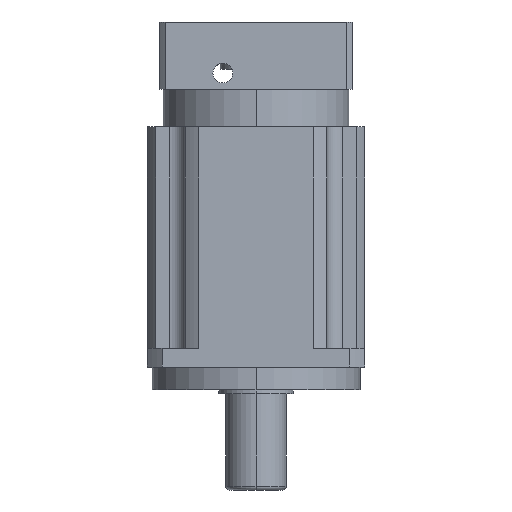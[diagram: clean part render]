
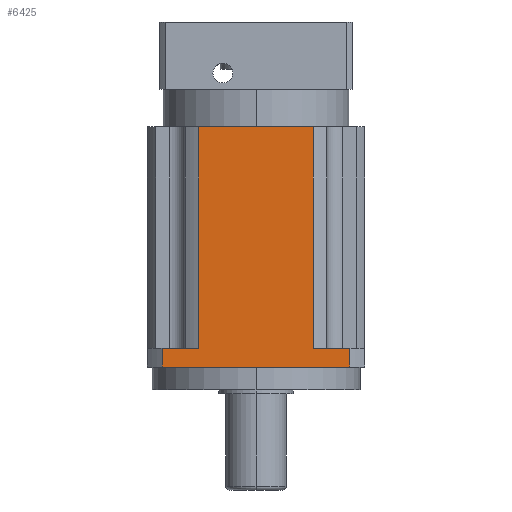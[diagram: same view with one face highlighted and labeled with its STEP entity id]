
A CAD part, left-side view. The second image highlights one B-rep face of the part: STEP entity #6425.
In plain terms, the highlighted planar face has unit normal (-1, 0, 0).
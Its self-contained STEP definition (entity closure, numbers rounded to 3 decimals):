
#204 = CARTESIAN_POINT ( 'NONE',  ( -57.5, 30.311, 139. ) ) ;
#233 = EDGE_LOOP ( 'NONE', ( #493, #6707, #6776, #654, #1024, #1803, #10084, #713 ) ) ;
#315 = LINE ( 'NONE', #9364, #8974 ) ;
#493 = ORIENTED_EDGE ( 'NONE', *, *, #7745, .T. ) ;
#654 = ORIENTED_EDGE ( 'NONE', *, *, #1472, .T. ) ;
#713 = ORIENTED_EDGE ( 'NONE', *, *, #5409, .F. ) ;
#819 = CARTESIAN_POINT ( 'NONE',  ( -57.5, 49.697, 79.5 ) ) ;
#1024 = ORIENTED_EDGE ( 'NONE', *, *, #4457, .T. ) ;
#1204 = CARTESIAN_POINT ( 'NONE',  ( -57.5, 30.311, 139. ) ) ;
#1323 = CARTESIAN_POINT ( 'NONE',  ( -57.5, 49.697, 12. ) ) ;
#1387 = VERTEX_POINT ( 'NONE', #3712 ) ;
#1390 = DIRECTION ( 'NONE',  ( 0., 0., 1. ) ) ;
#1417 = VECTOR ( 'NONE', #5304, 1000. ) ;
#1472 = EDGE_CURVE ( 'NONE', #6703, #8331, #8691, .T. ) ;
#1803 = ORIENTED_EDGE ( 'NONE', *, *, #5656, .T. ) ;
#2106 = CARTESIAN_POINT ( 'NONE',  ( -57.5, 0., 22. ) ) ;
#2138 = VECTOR ( 'NONE', #8888, 1000. ) ;
#2284 = CARTESIAN_POINT ( 'NONE',  ( -57.5, -49.697, 22. ) ) ;
#2723 = CARTESIAN_POINT ( 'NONE',  ( -57.5, -49.697, 12. ) ) ;
#3023 = VERTEX_POINT ( 'NONE', #4897 ) ;
#3183 = CARTESIAN_POINT ( 'NONE',  ( -57.5, -30.311, 139. ) ) ;
#3203 = CARTESIAN_POINT ( 'NONE',  ( -57.5, 30.311, 22. ) ) ;
#3212 = LINE ( 'NONE', #4654, #9291 ) ;
#3519 = DIRECTION ( 'NONE',  ( 0., 1., 0. ) ) ;
#3520 = LINE ( 'NONE', #2106, #1417 ) ;
#3588 = DIRECTION ( 'NONE',  ( 0., -1., 0. ) ) ;
#3712 = CARTESIAN_POINT ( 'NONE',  ( -57.5, 49.697, 22. ) ) ;
#4380 = VECTOR ( 'NONE', #6348, 1000. ) ;
#4450 = VERTEX_POINT ( 'NONE', #1323 ) ;
#4457 = EDGE_CURVE ( 'NONE', #8331, #1387, #3520, .T. ) ;
#4517 = PLANE ( 'NONE',  #9313 ) ;
#4598 = DIRECTION ( 'NONE',  ( 0., 0., -1. ) ) ;
#4625 = DIRECTION ( 'NONE',  ( 0., 0., -1. ) ) ;
#4654 = CARTESIAN_POINT ( 'NONE',  ( -57.5, 0., 22. ) ) ;
#4897 = CARTESIAN_POINT ( 'NONE',  ( -57.5, -49.697, 12. ) ) ;
#4974 = VECTOR ( 'NONE', #3519, 1000. ) ;
#5304 = DIRECTION ( 'NONE',  ( 0., 1., 0. ) ) ;
#5409 = EDGE_CURVE ( 'NONE', #7754, #3023, #10063, .T. ) ;
#5656 = EDGE_CURVE ( 'NONE', #1387, #4450, #6222, .T. ) ;
#5798 = EDGE_CURVE ( 'NONE', #3023, #4450, #9183, .T. ) ;
#6148 = DIRECTION ( 'NONE',  ( -1., 0., 0. ) ) ;
#6222 = LINE ( 'NONE', #819, #4380 ) ;
#6348 = DIRECTION ( 'NONE',  ( 0., 0., -1. ) ) ;
#6425 = ADVANCED_FACE ( 'NONE', ( #6973 ), #4517, .T. ) ;
#6585 = CARTESIAN_POINT ( 'NONE',  ( -57.5, -49.697, 79.5 ) ) ;
#6623 = VECTOR ( 'NONE', #4598, 1000. ) ;
#6703 = VERTEX_POINT ( 'NONE', #204 ) ;
#6707 = ORIENTED_EDGE ( 'NONE', *, *, #10019, .F. ) ;
#6776 = ORIENTED_EDGE ( 'NONE', *, *, #7032, .F. ) ;
#6955 = CARTESIAN_POINT ( 'NONE',  ( -57.5, 30.311, 79.501 ) ) ;
#6973 = FACE_OUTER_BOUND ( 'NONE', #233, .T. ) ;
#7032 = EDGE_CURVE ( 'NONE', #6703, #8954, #8292, .T. ) ;
#7552 = VECTOR ( 'NONE', #3588, 1000. ) ;
#7745 = EDGE_CURVE ( 'NONE', #7754, #8193, #3212, .T. ) ;
#7754 = VERTEX_POINT ( 'NONE', #2284 ) ;
#8193 = VERTEX_POINT ( 'NONE', #8422 ) ;
#8292 = LINE ( 'NONE', #1204, #7552 ) ;
#8331 = VERTEX_POINT ( 'NONE', #3203 ) ;
#8422 = CARTESIAN_POINT ( 'NONE',  ( -57.5, -30.311, 22. ) ) ;
#8478 = CARTESIAN_POINT ( 'NONE',  ( -57.5, 0., 79.5 ) ) ;
#8691 = LINE ( 'NONE', #6955, #6623 ) ;
#8888 = DIRECTION ( 'NONE',  ( 0., 0., -1. ) ) ;
#8954 = VERTEX_POINT ( 'NONE', #3183 ) ;
#8974 = VECTOR ( 'NONE', #4625, 1000. ) ;
#9183 = LINE ( 'NONE', #2723, #4974 ) ;
#9291 = VECTOR ( 'NONE', #10172, 1000. ) ;
#9313 = AXIS2_PLACEMENT_3D ( 'NONE', #8478, #6148, #1390 ) ;
#9364 = CARTESIAN_POINT ( 'NONE',  ( -57.5, -30.311, 79.501 ) ) ;
#10019 = EDGE_CURVE ( 'NONE', #8954, #8193, #315, .T. ) ;
#10063 = LINE ( 'NONE', #6585, #2138 ) ;
#10084 = ORIENTED_EDGE ( 'NONE', *, *, #5798, .F. ) ;
#10172 = DIRECTION ( 'NONE',  ( 0., 1., 0. ) ) ;
